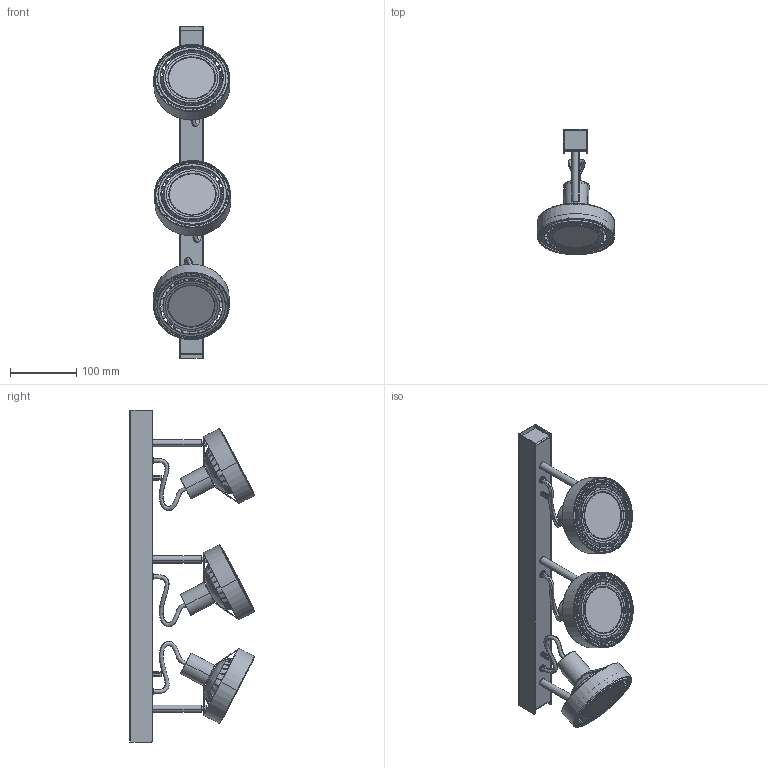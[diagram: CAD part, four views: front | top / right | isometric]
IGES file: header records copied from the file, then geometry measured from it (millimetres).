
Start section: SolidWorks IGES file using analytic representation for surfaces
Global section: file name: Z:\Modele 3D_WWW\_KOLEKCJE_WWW\CROSS\CROSS-III-9601-9596\CROSS-III-9601-9596.IGS; native system: SolidWorks 2021; preprocessor: SolidWorks 2021; author: gabriela.tworek; date: 210702.111401; units: millimetre
Bounding box: 116.2 x 188.04 x 500 mm (x, y, z)
Surface area: 422915.7 mm2 (no closed solid volume)
Topology: 0 solids, 0 shells, 1756 faces, 19823 edges, 19805 vertices
Faces by surface type: bspline 1035, revolution 721
